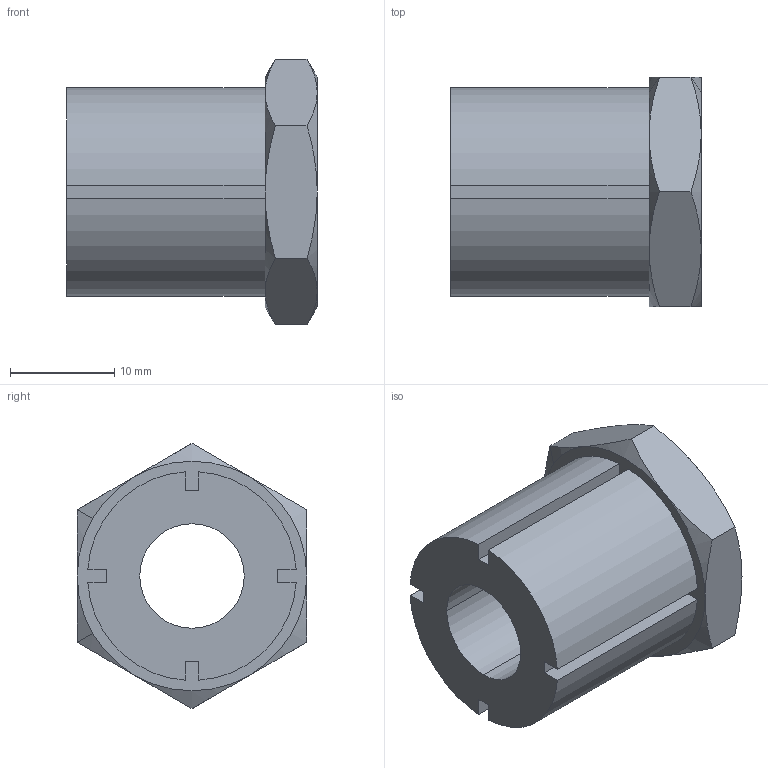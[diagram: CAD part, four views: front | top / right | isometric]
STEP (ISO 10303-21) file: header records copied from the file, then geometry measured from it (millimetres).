
FILE_DESCRIPTION((''),'2;1');
FILE_NAME('C:\WIXROYD\Positioning\3840\3840W010.stp','2003-01-09T15:38:45',('Administrator'),(''),'Autodesk Inventor (tm) 5.0','Autodesk Inventor (tm) 5.0','');
FILE_SCHEMA(('CONFIG_CONTROL_DESIGN'));
Length unit declared in the file: millimetre
Products named in the file (1): 3840W010
Bounding box: 24 x 22 x 25.4 mm (x, y, z)
Volume: 5979.6 mm3; surface area: 3241.1 mm2
Topology: 1 solids, 1 shells, 45 faces, 110 edges, 68 vertices
Faces by surface type: plane 21, cone 16, cylinder 8
Entity records: 1383 total; most frequent: CARTESIAN_POINT 272, ORIENTED_EDGE 220, DIRECTION 210, EDGE_CURVE 110, AXIS2_PLACEMENT_3D 78, VERTEX_POINT 68, VECTOR 54, LINE 54
